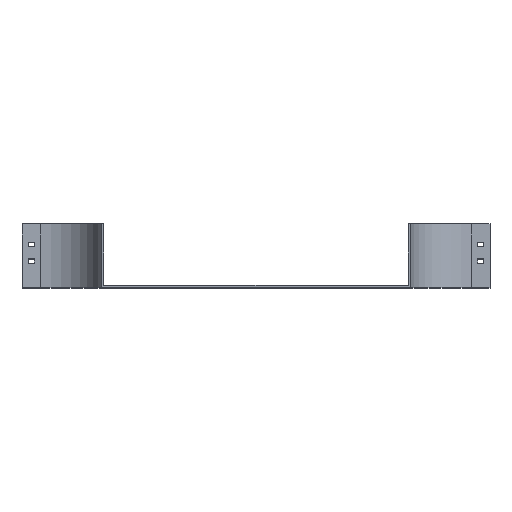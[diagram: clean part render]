
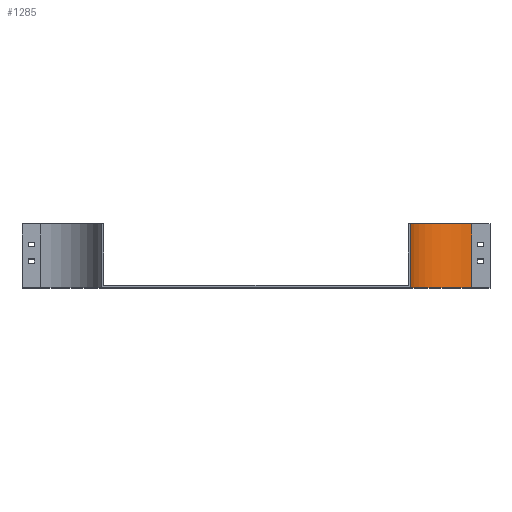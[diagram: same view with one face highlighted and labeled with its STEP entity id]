
A CAD part, top view. The second image highlights one B-rep face of the part: STEP entity #1285.
In plain terms, the highlighted cylindrical face has radius 100 mm (diameter 200 mm), a partial arc.
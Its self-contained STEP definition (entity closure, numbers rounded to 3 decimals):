
#27 = DIRECTION ( 'NONE',  ( 0., 0., -1. ) ) ;
#319 = EDGE_CURVE ( 'NONE', #1401, #1231, #3466, .T. ) ;
#425 = LINE ( 'NONE', #808, #1617 ) ;
#522 = CARTESIAN_POINT ( 'NONE',  ( 0., 104., -100. ) ) ;
#529 = CARTESIAN_POINT ( 'NONE',  ( 0., 104., -100. ) ) ;
#541 = VECTOR ( 'NONE', #3529, 1000. ) ;
#652 = DIRECTION ( 'NONE',  ( 0., -1., 0. ) ) ;
#808 = CARTESIAN_POINT ( 'NONE',  ( -100., 104., 0. ) ) ;
#828 = EDGE_LOOP ( 'NONE', ( #2077, #3558, #867, #3643 ) ) ;
#867 = ORIENTED_EDGE ( 'NONE', *, *, #3519, .F. ) ;
#884 = CYLINDRICAL_SURFACE ( 'NONE', #1691, 100. ) ;
#1142 = CARTESIAN_POINT ( 'NONE',  ( -100., 104., 0. ) ) ;
#1199 = CARTESIAN_POINT ( 'NONE',  ( 0., 104., 0. ) ) ;
#1231 = VERTEX_POINT ( 'NONE', #2429 ) ;
#1285 = ADVANCED_FACE ( 'NONE', ( #1466 ), #884, .F. ) ;
#1309 = AXIS2_PLACEMENT_3D ( 'NONE', #1480, #2902, #27 ) ;
#1401 = VERTEX_POINT ( 'NONE', #522 ) ;
#1447 = DIRECTION ( 'NONE',  ( 0., -1., 0. ) ) ;
#1466 = FACE_OUTER_BOUND ( 'NONE', #828, .T. ) ;
#1480 = CARTESIAN_POINT ( 'NONE',  ( 0., 0., 0. ) ) ;
#1617 = VECTOR ( 'NONE', #3132, 1000. ) ;
#1691 = AXIS2_PLACEMENT_3D ( 'NONE', #1199, #1447, #2699 ) ;
#1939 = CIRCLE ( 'NONE', #1309, 100. ) ;
#2061 = CARTESIAN_POINT ( 'NONE',  ( -100., 0., 0. ) ) ;
#2077 = ORIENTED_EDGE ( 'NONE', *, *, #2375, .T. ) ;
#2163 = EDGE_CURVE ( 'NONE', #2735, #3047, #425, .T. ) ;
#2375 = EDGE_CURVE ( 'NONE', #3047, #1231, #1939, .T. ) ;
#2429 = CARTESIAN_POINT ( 'NONE',  ( 0., 0., -100. ) ) ;
#2699 = DIRECTION ( 'NONE',  ( 0., 0., -1. ) ) ;
#2735 = VERTEX_POINT ( 'NONE', #1142 ) ;
#2872 = AXIS2_PLACEMENT_3D ( 'NONE', #3552, #652, #3249 ) ;
#2902 = DIRECTION ( 'NONE',  ( 0., -1., 0. ) ) ;
#3047 = VERTEX_POINT ( 'NONE', #2061 ) ;
#3132 = DIRECTION ( 'NONE',  ( 0., -1., 0. ) ) ;
#3249 = DIRECTION ( 'NONE',  ( 0., 0., -1. ) ) ;
#3446 = CIRCLE ( 'NONE', #2872, 100. ) ;
#3466 = LINE ( 'NONE', #529, #541 ) ;
#3519 = EDGE_CURVE ( 'NONE', #2735, #1401, #3446, .T. ) ;
#3529 = DIRECTION ( 'NONE',  ( 0., -1., 0. ) ) ;
#3552 = CARTESIAN_POINT ( 'NONE',  ( 0., 104., 0. ) ) ;
#3558 = ORIENTED_EDGE ( 'NONE', *, *, #319, .F. ) ;
#3643 = ORIENTED_EDGE ( 'NONE', *, *, #2163, .T. ) ;
